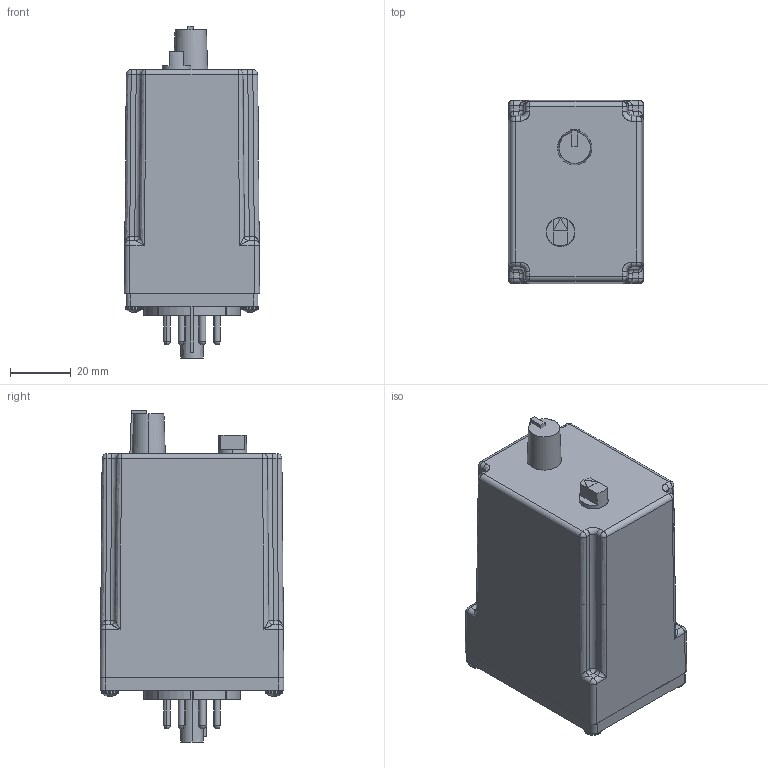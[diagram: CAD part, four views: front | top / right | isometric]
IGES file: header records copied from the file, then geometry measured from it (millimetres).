
Start section: SolidWorks IGES file using analytic representation for surfaces
Global section: file name: D:\Modeling Work\Macromatic\2019\TR-6 eCAD Package\TR-6 Package\TR-6 Trueoff\TR-6 Trueoff.IGS; native system: SolidWorks 2019; preprocessor: SolidWorks 2019; author: mdahl; date: 190520.195211; units: millimetre
Bounding box: 44.45 x 60.33 x 109.09 mm (x, y, z)
Surface area: 29917.2 mm2 (no closed solid volume)
Topology: 0 solids, 0 shells, 702 faces, 8625 edges, 8557 vertices
Faces by surface type: revolution 352, bspline 350
